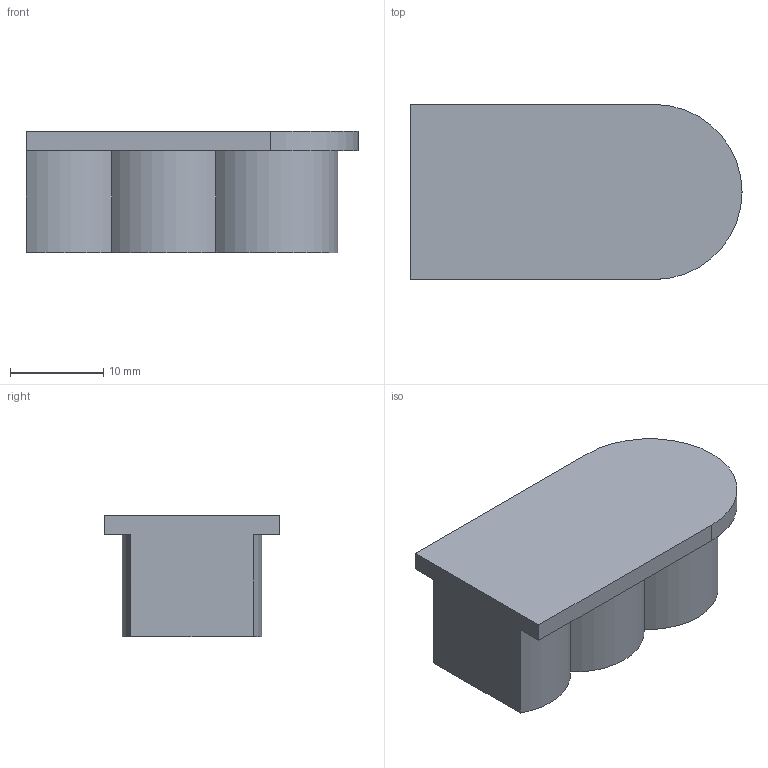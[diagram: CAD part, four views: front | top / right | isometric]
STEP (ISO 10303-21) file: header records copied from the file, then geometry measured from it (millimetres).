
FILE_DESCRIPTION(/* description */ (''),/* implementation_level */ '2;1');
FILE_NAME(/* name */ 'C:\Users\matthiask.LAMELLONET\Desktop\Cabineo_Abdeckkappe_flächenbündig_Variante_1-2.stp',/* time_stamp */ '2021-07-09T11:48:12+02:00',/* author */ ('matthiask'),/* organization */ (''),/* preprocessor_version */ 'ST-DEVELOPER v18',/* originating_system */ 'Autodesk Inventor 2020',/* authorisation */ '');
FILE_SCHEMA (('AUTOMOTIVE_DESIGN { 1 0 10303 214 3 1 1 }'));
Length unit declared in the file: millimetre
Products named in the file (1): Cabineo Abdeckkappe flächenbündig Variante 1-2
Bounding box: 35.65 x 18.8 x 13 mm (x, y, z)
Volume: 6132.2 mm3; surface area: 2509.5 mm2
Topology: 1 solids, 1 shells, 12 faces, 30 edges, 20 vertices
Faces by surface type: plane 6, cylinder 6
Entity records: 416 total; most frequent: DIRECTION 68, CARTESIAN_POINT 63, ORIENTED_EDGE 60, EDGE_CURVE 30, AXIS2_PLACEMENT_3D 25, VERTEX_POINT 20, LINE 18, VECTOR 18
